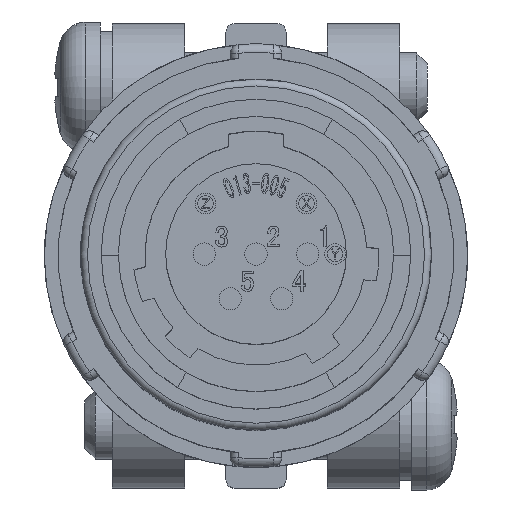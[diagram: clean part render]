
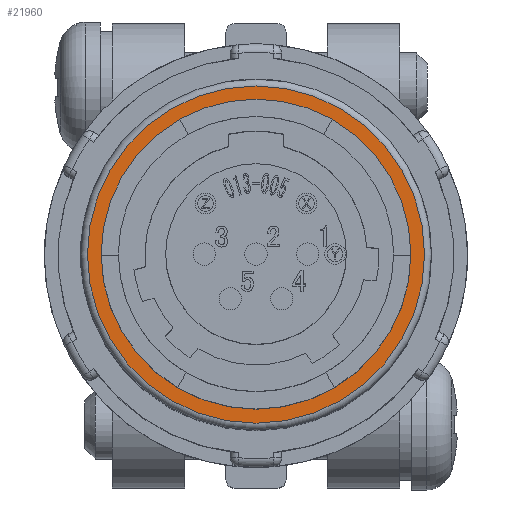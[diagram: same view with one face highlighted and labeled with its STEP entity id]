
A CAD part, top view. The second image highlights one B-rep face of the part: STEP entity #21960.
In plain terms, the highlighted planar face has unit normal (0, 0, 1).
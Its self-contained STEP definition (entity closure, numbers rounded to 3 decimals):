
#26 = AXIS2_PLACEMENT_3D ( 'NONE', #29254, #10798, #1748 ) ;
#587 = EDGE_CURVE ( 'NONE', #5521, #5521, #20147, .T. ) ;
#1350 = DIRECTION ( 'NONE',  ( 0., 0., 1. ) ) ;
#1748 = DIRECTION ( 'NONE',  ( -1., 0., 0. ) ) ;
#1849 = PLANE ( 'NONE',  #26 ) ;
#2099 = ORIENTED_EDGE ( 'NONE', *, *, #587, .T. ) ;
#3537 = EDGE_CURVE ( 'NONE', #16655, #16655, #18800, .T. ) ;
#5521 = VERTEX_POINT ( 'NONE', #9588 ) ;
#9588 = CARTESIAN_POINT ( 'NONE',  ( 9.8, 0., -19.2 ) ) ;
#10798 = DIRECTION ( 'NONE',  ( 0., 0., -1. ) ) ;
#11471 = ORIENTED_EDGE ( 'NONE', *, *, #3537, .F. ) ;
#14178 = EDGE_LOOP ( 'NONE', ( #2099 ) ) ;
#16655 = VERTEX_POINT ( 'NONE', #21292 ) ;
#17755 = CARTESIAN_POINT ( 'NONE',  ( 0., 0., -19.2 ) ) ;
#18318 = EDGE_LOOP ( 'NONE', ( #11471 ) ) ;
#18800 = CIRCLE ( 'NONE', #22428, 7.98 ) ;
#19855 = CARTESIAN_POINT ( 'NONE',  ( 0., 0., -19.2 ) ) ;
#20147 = CIRCLE ( 'NONE', #27397, 9.8 ) ;
#20582 = FACE_OUTER_BOUND ( 'NONE', #14178, .T. ) ;
#21292 = CARTESIAN_POINT ( 'NONE',  ( -7.98, 0., -19.2 ) ) ;
#21960 = ADVANCED_FACE ( 'NONE', ( #23086, #20582 ), #1849, .F. ) ;
#22428 = AXIS2_PLACEMENT_3D ( 'NONE', #19855, #26888, #24306 ) ;
#23086 = FACE_BOUND ( 'NONE', #18318, .T. ) ;
#24306 = DIRECTION ( 'NONE',  ( -1., 0., 0. ) ) ;
#26765 = DIRECTION ( 'NONE',  ( 1., 0., 0. ) ) ;
#26888 = DIRECTION ( 'NONE',  ( 0., 0., 1. ) ) ;
#27397 = AXIS2_PLACEMENT_3D ( 'NONE', #17755, #1350, #26765 ) ;
#29254 = CARTESIAN_POINT ( 'NONE',  ( 0., 9.8, -19.2 ) ) ;
